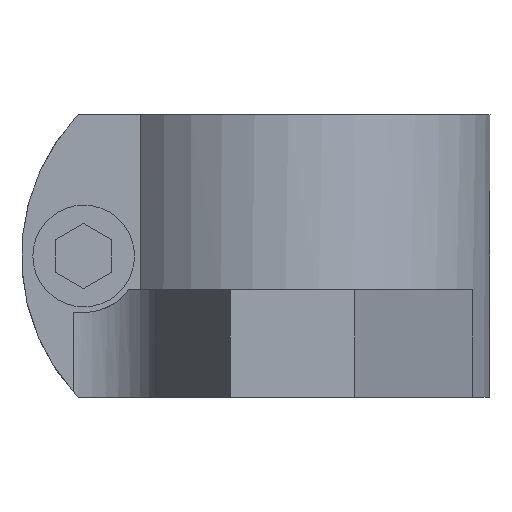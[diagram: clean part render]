
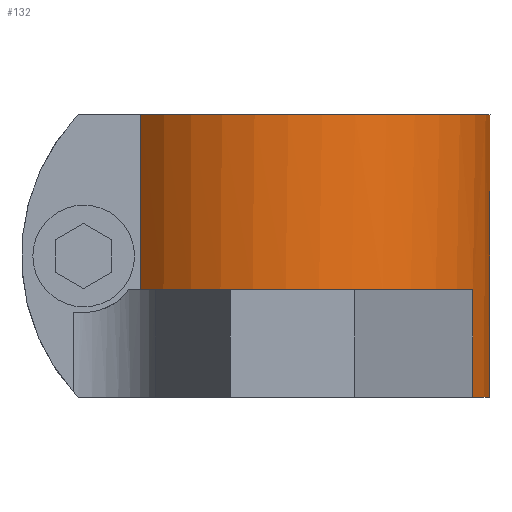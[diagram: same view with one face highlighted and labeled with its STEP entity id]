
A CAD part, left-side view. The second image highlights one B-rep face of the part: STEP entity #132.
In plain terms, the highlighted cylindrical face has radius 35 mm (diameter 70 mm), a partial arc.
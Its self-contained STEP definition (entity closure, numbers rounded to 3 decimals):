
#132=ADVANCED_FACE('',(#189),#190,.T.);
#189=FACE_OUTER_BOUND('',#291,.T.);
#190=CYLINDRICAL_SURFACE('',#292,35.0);
#291=EDGE_LOOP('',(#429,#430,#431,#432,#433,#434,#435,#436));
#292=AXIS2_PLACEMENT_3D('',#437,#438,#439);
#429=ORIENTED_EDGE('',*,*,#722,.T.);
#430=ORIENTED_EDGE('',*,*,#713,.T.);
#431=ORIENTED_EDGE('',*,*,#723,.F.);
#432=ORIENTED_EDGE('',*,*,#721,.F.);
#433=ORIENTED_EDGE('',*,*,#724,.F.);
#434=ORIENTED_EDGE('',*,*,#725,.T.);
#435=ORIENTED_EDGE('',*,*,#710,.F.);
#436=ORIENTED_EDGE('',*,*,#717,.F.);
#437=CARTESIAN_POINT('',(0.0,0.,-115.0));
#438=DIRECTION('',(-0.0,-0.0,-1.0));
#439=DIRECTION('',(0.409,-0.912,0.0));
#710=EDGE_CURVE('',#825,#814,#827,.T.);
#713=EDGE_CURVE('',#833,#831,#834,.T.);
#717=EDGE_CURVE('',#838,#825,#840,.T.);
#721=EDGE_CURVE('',#846,#842,#848,.T.);
#722=EDGE_CURVE('',#838,#833,#849,.T.);
#723=EDGE_CURVE('',#842,#831,#850,.T.);
#724=EDGE_CURVE('',#851,#846,#852,.F.);
#725=EDGE_CURVE('',#851,#814,#853,.T.);
#814=VERTEX_POINT('',#997);
#825=VERTEX_POINT('',#1012);
#827=CIRCLE('',#1014,35.0);
#831=VERTEX_POINT('',#1019);
#833=VERTEX_POINT('',#1022);
#834=LINE('',#1023,#1024);
#838=VERTEX_POINT('',#1030);
#840=LINE('',#1032,#1033);
#842=VERTEX_POINT('',#1035);
#846=VERTEX_POINT('',#1041);
#848=LINE('',#1044,#1045);
#849=CIRCLE('',#1046,35.0);
#850=CIRCLE('',#1047,35.0);
#851=VERTEX_POINT('',#1048);
#852=CIRCLE('',#1049,35.0);
#853=LINE('',#1050,#1051);
#997=CARTESIAN_POINT('',(14.323,-31.935,-31.0));
#1012=CARTESIAN_POINT('',(24.659,24.838,-31.0));
#1014=AXIS2_PLACEMENT_3D('',#1280,#1281,#1282);
#1019=CARTESIAN_POINT('',(-22.271,27.0,-31.0));
#1022=CARTESIAN_POINT('',(-22.271,27.0,0.));
#1023=CARTESIAN_POINT('',(-22.271,27.0,0.));
#1024=VECTOR('',#1285,1.0);
#1030=CARTESIAN_POINT('',(24.659,24.838,0.));
#1032=CARTESIAN_POINT('',(24.659,24.838,0.));
#1033=VECTOR('',#1291,1.0);
#1035=CARTESIAN_POINT('',(-14.323,-31.935,-31.0));
#1041=CARTESIAN_POINT('',(-14.323,-31.935,-50.0));
#1044=CARTESIAN_POINT('',(-14.323,-31.935,-115.0));
#1045=VECTOR('',#1295,1.0);
#1046=AXIS2_PLACEMENT_3D('',#1296,#1297,#1298);
#1047=AXIS2_PLACEMENT_3D('',#1299,#1300,#1301);
#1048=CARTESIAN_POINT('',(14.323,-31.935,-50.0));
#1049=AXIS2_PLACEMENT_3D('',#1302,#1303,#1304);
#1050=CARTESIAN_POINT('',(14.323,-31.935,-115.0));
#1051=VECTOR('',#1305,1.0);
#1280=CARTESIAN_POINT('',(0.,0.0,-31.0));
#1281=DIRECTION('',(0.,0.,-1.0));
#1282=DIRECTION('',(1.0,0.,0.));
#1285=DIRECTION('',(0.,0.0,-1.0));
#1291=DIRECTION('',(0.,0.0,-1.0));
#1295=DIRECTION('',(0.0,0.0,1.0));
#1296=CARTESIAN_POINT('',(0.0,0.,0.0));
#1297=DIRECTION('',(0.0,0.0,-1.0));
#1298=DIRECTION('',(1.0,0.0,0.0));
#1299=CARTESIAN_POINT('',(0.,0.0,-31.0));
#1300=DIRECTION('',(0.,0.,-1.0));
#1301=DIRECTION('',(1.0,0.,0.));
#1302=CARTESIAN_POINT('',(0.0,0.,-50.0));
#1303=DIRECTION('',(0.,0.0,1.0));
#1304=DIRECTION('',(1.0,0.0,0.));
#1305=DIRECTION('',(0.0,0.0,1.0));
